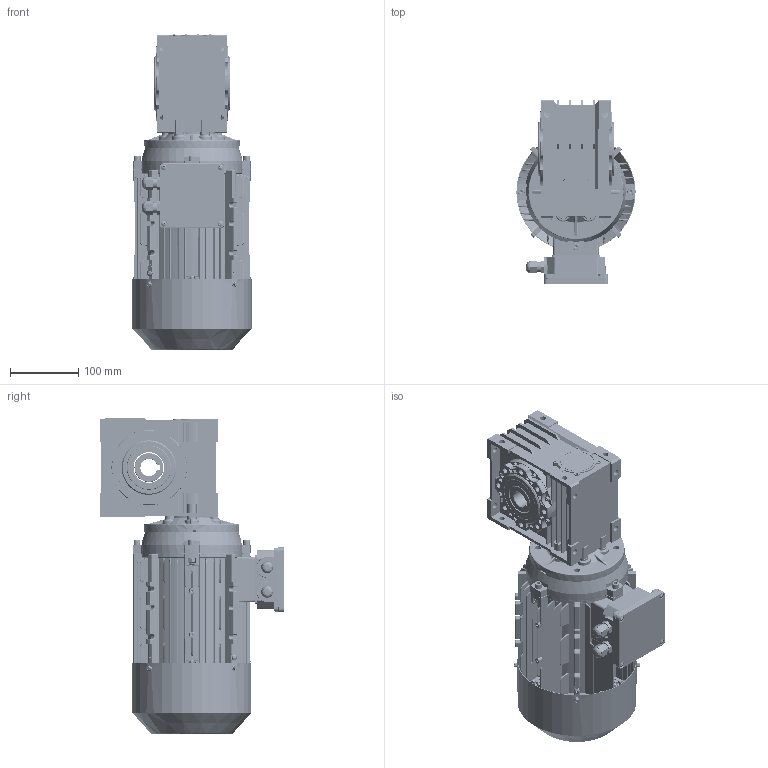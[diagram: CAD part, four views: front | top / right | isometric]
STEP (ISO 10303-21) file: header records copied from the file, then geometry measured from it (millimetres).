
FILE_DESCRIPTION (( 'STEP AP203' ), '1' );
FILE_NAME ('CMRV063_MX3-90L.STEP', '2025-12-16T11:57:31', ( '' ), ( '' ), 'SwSTEP 2.0', 'SolidWorks 2021', '' );
FILE_SCHEMA (( 'CONFIG_CONTROL_DESIGN' ));
Length unit declared in the file: millimetre
Products named in the file (31): MX3-90L_B14.STEP; IE3 90L grouding mark_1.STEP; 1.STEP; 3.STEP; spring lock washers--normal type gb_GB_FASTENER_WASHER_SW 6_1.STEP; CMRV063_MX3-90L; hexagon socket head cap screws gb_GB_FASTENER_SCREWS_HSHCS M6X30-N_1.STEP; 5.STEP; cross recessed pan head screws gb_GB_CROSS_SCREWS_TYPE1 M4X5-5  H type-N_1.STEP; IE3-90L flange B14.STEP; IE3 90L terminal box cover_1.STEP; hexagon flange head tapping screws gb_GB_SQUARE_AND_HEXAGON_TYPE137 ST4.2X9.5 F-N_1.STEP; circlips for shaft--type a large gb_GB_CONNECTING_PIECE_RING_RRA 19_1.STEP; ____35-52-7.STEP; cross recessed pan head screws gb_GB_CROSS_SCREWS_TYPE1 M5X10-10  H type-N_1.STEP; IE3 90L fan cover_1.STEP; IE3 90L terminal box_1.STEP; hex lobular socket head cap screws-8.8 gb_GB_HEXAGON_TYPE22 M8X16-N.STEP; IE3 90L casing_1.STEP; FCN63-90B14.STEP; IE3 90L cable glandsM16_1.STEP; IE3 90L  oil seal_1.STEP; IE3 90L flange_1.STEP; hexagon nuts grade c gb_GB_FASTENER_NUT_SNC1 M6-N_1.STEP; IE3 90L rotor_1.STEP; 63____24.STEP; plain washers-n series-grade a gb_GB_FASTENER_WASHER_PWNA 4_1.STEP; plain parallel keys_GB_CONNECTING_PIECE_KEYS_CSK 8X40_1.STEP; IE3 90L fan_1.STEP; CMRV063-90B14.STEP; cross recessed pan head tapping screws gb_GB_CROSS_SCREWS_TYPE128 ST4.2X9.5 H C-N_1.STEP
Assembly tree (65 placements, depth 3):
  CMRV063_MX3-90L
    MX3-90L_B14.STEP
      IE3 90L casing_1.STEP
      IE3 90L rotor_1.STEP
      IE3 90L fan_1.STEP
      IE3 90L fan cover_1.STEP
      plain parallel keys_GB_CONNECTING_PIECE_KEYS_CSK 8X40_1.STEP
      IE3 90L terminal box_1.STEP
      IE3 90L terminal box cover_1.STEP
      spring lock washers--normal type gb_GB_FASTENER_WASHER_SW 6_1.STEP  x8
      cross recessed pan head tapping screws gb_GB_CROSS_SCREWS_TYPE128 ST4.2X9.5 H C-N_1.STEP  x4
      hexagon flange head tapping screws gb_GB_SQUARE_AND_HEXAGON_TYPE137 ST4.2X9.5 F-N_1.STEP  x4
      hexagon socket head cap screws gb_GB_FASTENER_SCREWS_HSHCS M6X30-N_1.STEP  x8
      IE3 90L flange_1.STEP
      circlips for shaft--type a large gb_GB_CONNECTING_PIECE_RING_RRA 19_1.STEP
      IE3 90L grouding mark_1.STEP
      plain washers-n series-grade a gb_GB_FASTENER_WASHER_PWNA 4_1.STEP
      cross recessed pan head screws gb_GB_CROSS_SCREWS_TYPE1 M4X5-5  H type-N_1.STEP
      cross recessed pan head screws gb_GB_CROSS_SCREWS_TYPE1 M5X10-10  H type-N_1.STEP  x4
      IE3 90L cable glandsM16_1.STEP  x2
      IE3 90L  oil seal_1.STEP
      hexagon nuts grade c gb_GB_FASTENER_NUT_SNC1 M6-N_1.STEP  x7
      IE3-90L flange B14.STEP
    CMRV063-90B14.STEP
      5.STEP
      3.STEP
      1.STEP
      63____24.STEP
      FCN63-90B14.STEP
      ____35-52-7.STEP
      hex lobular socket head cap screws-8.8 gb_GB_HEXAGON_TYPE22 M8X16-N.STEP  x6
Bounding box: 175.1 x 270.5 x 463.35 mm (x, y, z)
Volume: 3833946.1 mm3; surface area: 1166112 mm2
Topology: 63 solids, 63 shells, 6720 faces, 16863 edges, 10360 vertices
Faces by surface type: plane 2325, cylinder 2233, bspline 1217, cone 390, sphere 304, torus 251
Entity records: 230550 total; most frequent: CARTESIAN_POINT 91740, ORIENTED_EDGE 29902, DIRECTION 25878, EDGE_CURVE 14951, AXIS2_PLACEMENT_3D 9749, VERTEX_POINT 9265, EDGE_LOOP 6490, LINE 6380
